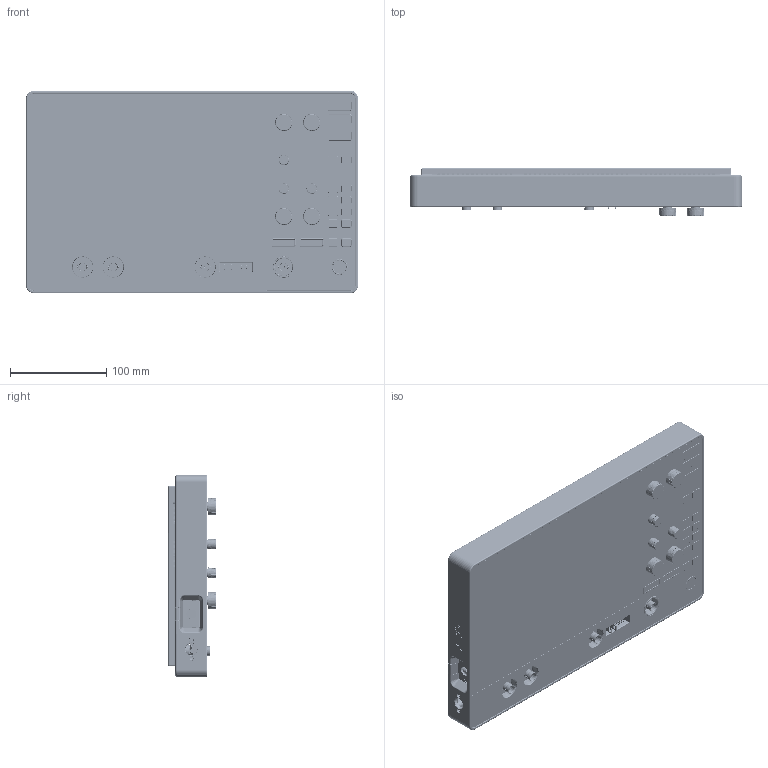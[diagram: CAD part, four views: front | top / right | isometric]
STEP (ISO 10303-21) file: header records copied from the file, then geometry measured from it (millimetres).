
FILE_DESCRIPTION((''),'2;1');
FILE_NAME('MASTER_ACC_LEXINGTON_LXN_ASM','2023-03-27T14:52:23',('mthomps2'),(''),'CREO PARAMETRIC BY PTC INC, 2022284','CREO PARAMETRIC BY PTC INC, 2022284','');
FILE_SCHEMA(('CONFIG_CONTROL_DESIGN','SHAPE_APPEARANCE_LAYERS_GROUPS'));
Products named in the file (41): COVERGLASS_MINIE_LXN; TOUCH-COVERGLASS_LXN_ASM; MODULE_TOUCH-DISPLAY_LXN_ASM; 2CH_LABEL_FRONT_IO; MEMBRANE_SWITCH_MINIE_LXN; MEMBRANE_SWITCH_CIRCUIT_LXN; SWITCH_DOME_8-89_17-78MM_LXN; SWITCH_DOME_8-4MM-PT28MM_TRT; MEMBRANE_SPACER_FP_LXN; MEMBRANE_SWITCH_FP_LXN_ASM; KNOB_SMALL_LXN; KNOB_SPRING_R66; KNOB_SMALL_W_SPRING_LXN_ASM; KNOB_MID_LXN; KNOB_MID_W_SPRING_LXN_ASM; MODULE_FRONT_LXN_ASM; FRONT_CASE_SUPERB_HULL_LXN; SUPERB_HULL_ASSEMBLY_LXN_ASM; HOUSING_GROUND_LUG_LXN; MODULE_CHASSIS_LXN_ASM; CASE_REAR_LXN; PEM-IUB-M4-2; CASE_REAR_LXN_ASM; BATTERY_IO_DOOR_LXN; LOC_CASE_BACK_LXN; SCREW_3X8MM_DELTA-PT_T10_ST_LIB; MODULE_REAR_LXN_ASM; PCB_MAIN_LXN; CONN_BNC_LXN; TRANSFORMER_G-BIT_RJ45_EMI_LIB; CONN_2X20_SMT_F_RA_MSO2_LIB; CONN_1X4_USB_TH_F_RA_B_LIB; CONN_1X4_USB_RA_DUAL_PBFREE_LIB; CONN_PROBE_COMP_LXN; CONN_2X4_SQPIN_TH_M_STR_720_LIB; PCB_MAIN_LXN_ASM; GUIDE_MSO_PROBE_LXN; SCREW_PH_M3X05X6_TX10_LIB; MODULE_PCB_MAIN_LXN_ASM; MASTER_LEXINGTON_LXN_ASM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
Assembly tree (114 placements, depth 6):
  MASTER_ACC_LEXINGTON_LXN_ASM
    MASTER_LEXINGTON_LXN_ASM
      MODULE_FRONT_LXN_ASM
        MODULE_TOUCH-DISPLAY_LXN_ASM
          TOUCH-COVERGLASS_LXN_ASM
            COVERGLASS_MINIE_LXN
        2CH_LABEL_FRONT_IO
        MEMBRANE_SWITCH_FP_LXN_ASM
          MEMBRANE_SWITCH_MINIE_LXN
          MEMBRANE_SWITCH_CIRCUIT_LXN
          SWITCH_DOME_8-89_17-78MM_LXN  x3
          SWITCH_DOME_8-4MM-PT28MM_TRT  x15
          MEMBRANE_SPACER_FP_LXN
        KNOB_SMALL_W_SPRING_LXN_ASM  x3
          KNOB_SMALL_LXN
          KNOB_SPRING_R66
        KNOB_MID_W_SPRING_LXN_ASM  x4
          KNOB_MID_LXN
          KNOB_SPRING_R66
      MODULE_CHASSIS_LXN_ASM
        SUPERB_HULL_ASSEMBLY_LXN_ASM
          FRONT_CASE_SUPERB_HULL_LXN
        HOUSING_GROUND_LUG_LXN
      MODULE_REAR_LXN_ASM
        CASE_REAR_LXN_ASM
          CASE_REAR_LXN
          PEM-IUB-M4-2  x8
        BATTERY_IO_DOOR_LXN
        LOC_CASE_BACK_LXN
        SCREW_3X8MM_DELTA-PT_T10_ST_LIB  x16
      MODULE_PCB_MAIN_LXN_ASM
        PCB_MAIN_LXN_ASM
          PCB_MAIN_LXN
          CONN_BNC_LXN  x4
          TRANSFORMER_G-BIT_RJ45_EMI_LIB
          CONN_2X20_SMT_F_RA_MSO2_LIB
          CONN_1X4_USB_TH_F_RA_B_LIB
          CONN_1X4_USB_RA_DUAL_PBFREE_LIB
          CONN_PROBE_COMP_LXN  x2
          CONN_2X4_SQPIN_TH_M_STR_720_LIB
        GUIDE_MSO_PROBE_LXN
        SCREW_3X8MM_DELTA-PT_T10_ST_LIB  x24
        SCREW_PH_M3X05X6_TX10_LIB  x3
Bounding box: 344.19 x 49.48 x 210 mm (x, y, z)
Volume: 821484.2 mm3; surface area: 858861.4 mm2
Topology: 108 solids, 159 shells, 29954 faces, 79020 edges, 49414 vertices
Faces by surface type: plane 11588, cylinder 8278, bspline 5353, cone 2119, torus 1675, sphere 620, extrusion 321
Entity records: 1007968 total; most frequent: CARTESIAN_POINT 272067, ORIENTED_EDGE 107231, DIRECTION 96691, PRESENTATION_STYLE_ASSIGNMENT 63805, STYLED_ITEM 63169, EDGE_CURVE 53764, CURVE_STYLE 51388, VERTEX_POINT 33182
